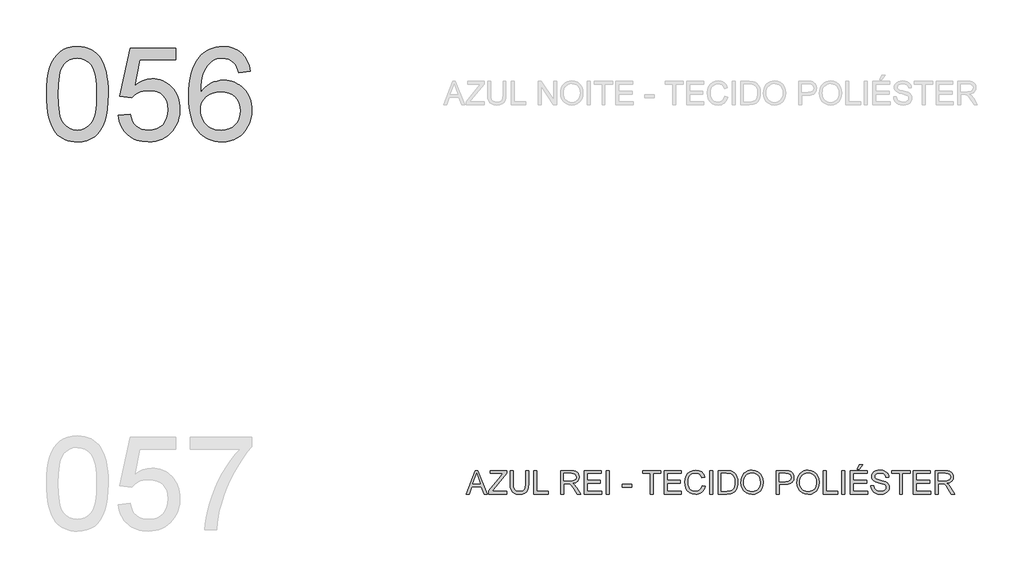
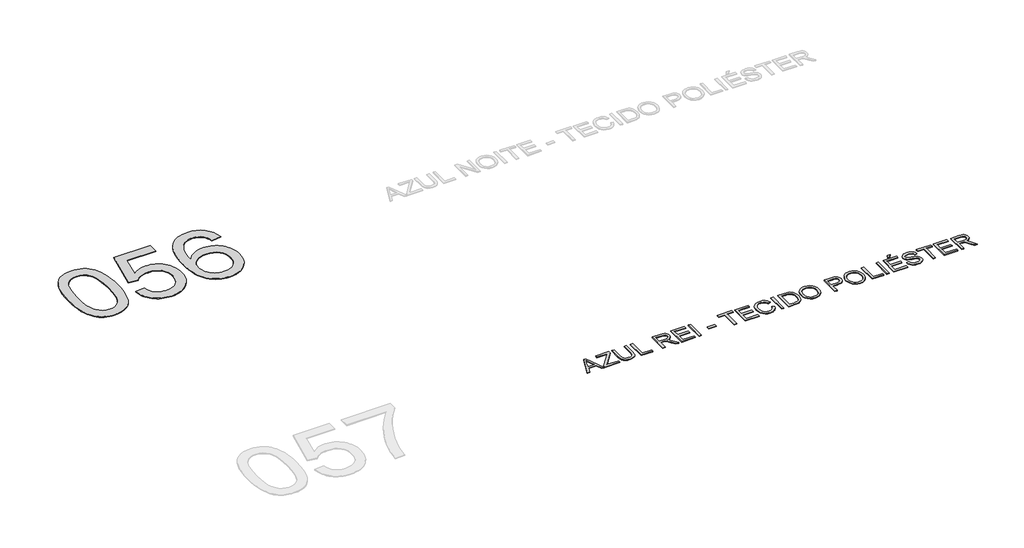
# One storey, part 16 of 67: 2 proxies.
"""IFC4 building model written with IfcOpenShell, lengths in millimetres."""

import ifcopenshell
import ifcopenshell.guid

model = None  # the IFC model being written
_history = None  # IfcOwnerHistory: only IFC2X3 demands one
_inside = {}  # id of a spatial element -> (the spatial element, [elements in it])
_under = {}  # id of a project, library or spatial element -> (it, [spatial elements below it])
_declared = {}  # id of a project -> (the project, [libraries it declares])
_typed = {}  # id of a type object -> (the type object, [elements of that type])
_made_of = {}  # id of a material, layer set ... -> (it, [elements and type objects made of it])


def new_model(schema):
    """Start an empty IFC model of exactly this schema.

    Asked for "IFC4X3", IfcOpenShell would pick the latest addendum, in which some entities
    have other attributes; the version numbers below select the first issue.
    IFC2X3 requires an IfcOwnerHistory on every rooted entity: one is made here for all.
    """
    global model, _history
    if schema == "IFC4X3":
        model = ifcopenshell.file(schema_version=(4, 3, 0, 0))
    else:
        model = ifcopenshell.file(schema=schema)
    _inside.clear()
    _under.clear()
    _declared.clear()
    _typed.clear()
    _made_of.clear()
    _history = None
    if model.schema == "IFC2X3":
        org = make("IfcOrganization", Name="unknown")
        user = make(
            "IfcPersonAndOrganization",
            ThePerson=make("IfcPerson", FamilyName="unknown"),
            TheOrganization=org,
        )
        app = make(
            "IfcApplication",
            ApplicationDeveloper=org,
            Version="unknown",
            ApplicationFullName="unknown",
            ApplicationIdentifier="unknown",
        )
        _history = make(
            "IfcOwnerHistory",
            OwningUser=user,
            OwningApplication=app,
            ChangeAction="ADDED",
            CreationDate=0,
        )
    return model


def make(cls, **values):
    """One entity of the class cls with the attributes given. An attribute that is None is left unset."""
    return model.create_entity(
        cls, **{name: value for name, value in values.items() if value is not None}
    )


def rooted(cls, **values):
    """An entity with a GlobalId (a new one), such as an element, a storey or a relation."""
    return make(cls, GlobalId=ifcopenshell.guid.new(), OwnerHistory=_history, **values)


def si_unit(unit_type, name, prefix=None):
    """IfcSIUnit, for example si_unit("LENGTHUNIT", "METRE", prefix="MILLI")."""
    return make("IfcSIUnit", UnitType=unit_type, Prefix=prefix, Name=name)


def assignment(units):
    """IfcUnitAssignment: the units of a project."""
    return None if units is None else make("IfcUnitAssignment", Units=units)


def point(xyz):
    """IfcCartesianPoint."""
    return None if xyz is None else make("IfcCartesianPoint", Coordinates=xyz)


def direction(xyz):
    """IfcDirection."""
    return None if xyz is None else make("IfcDirection", DirectionRatios=xyz)


def frame(location, z_axis=None, x_axis=None):
    """IfcAxis2Placement3D, a coordinate frame: its origin and axes. An axis left out is left unset."""
    return make(
        "IfcAxis2Placement3D",
        Location=point(location),
        Axis=direction(z_axis),
        RefDirection=direction(x_axis),
    )


def origin():
    """The frame at (0, 0, 0) with its axes left unset."""
    return frame((0.0, 0.0, 0.0))


def origin_with_axes():
    """The frame at (0, 0, 0) with the z axis (0, 0, 1) and the x axis (1, 0, 0) written out."""
    return frame((0.0, 0.0, 0.0), z_axis=(0.0, 0.0, 1.0), x_axis=(1.0, 0.0, 0.0))


def place(relative_to, where):
    """IfcLocalPlacement: puts the frame where relative to a parent placement (None: the world)."""
    return make(
        "IfcLocalPlacement", PlacementRelTo=relative_to, RelativePlacement=where
    )


def context(
    kind, dimensions, precision=None, world=None, true_north=None, identifier=None
):
    """IfcGeometricRepresentationContext, for example the 3D "Model" context."""
    return make(
        "IfcGeometricRepresentationContext",
        ContextIdentifier=identifier,
        ContextType=kind,
        CoordinateSpaceDimension=dimensions,
        Precision=precision,
        WorldCoordinateSystem=world,
        TrueNorth=true_north,
    )


def project(units=None, contexts=None):
    """IfcProject with its units and contexts."""
    return rooted(
        "IfcProject",
        Name="project",
        RepresentationContexts=contexts,
        UnitsInContext=assignment(units),
    )


def spatial(cls, under=None, at=None, **own):
    """A site, building, storey or space (cls), placed at a placement, below another one or the project."""
    s = rooted(cls, ObjectPlacement=at, **own)
    if under is not None:
        _under.setdefault(under.id(), (under, []))[1].append(s)
    return s


def polyline(points):
    """IfcPolyline through the points."""
    return make("IfcPolyline", Points=[point(p) for p in points])


def outline(outer, holes=None, kind="AREA"):
    """IfcArbitraryClosedProfileDef: a profile drawn as a closed curve; with holes, ...WithVoids."""
    if holes is None:
        return make("IfcArbitraryClosedProfileDef", ProfileType=kind, OuterCurve=outer)
    return make(
        "IfcArbitraryProfileDefWithVoids",
        ProfileType=kind,
        OuterCurve=outer,
        InnerCurves=holes,
    )


def extrude(swept, where, along, depth):
    """IfcExtrudedAreaSolid: the profile swept, set in the frame where, extruded along a direction by depth."""
    return make(
        "IfcExtrudedAreaSolid",
        SweptArea=swept,
        Position=where,
        ExtrudedDirection=direction(along),
        Depth=depth,
    )


def shape(context_of_items, identifier, shape_type, items):
    """IfcShapeRepresentation: the items that make up one representation, for example the "Body"."""
    return make(
        "IfcShapeRepresentation",
        ContextOfItems=context_of_items,
        RepresentationIdentifier=identifier,
        RepresentationType=shape_type,
        Items=items,
    )


def made_of(thing, what):
    """Note that an element or type object is made of a material, layer set ...; save() writes the relation."""
    if what is not None:
        _made_of.setdefault(what.id(), (what, []))[1].append(thing)
    return thing


def element(
    cls,
    number,
    at=None,
    inside=None,
    cuts=None,
    type_object=None,
    material=None,
    context=None,
    identifier="Body",
    shape_type=None,
    held_by="IfcProductDefinitionShape",
    body=None,
    shapes=None,
    **own,
):
    """One element of the class cls, such as IfcWall. Its Tag is "e" and its number.

    at: its placement. inside: the storey or other place that contains it. cuts: it is an
    opening in that element (IfcRelVoidsElement). A single representation is given by context,
    identifier, shape_type and body (its items); several are given by shapes. held_by: the class
    of the entity that holds the representations. save() writes the other relations.
    """
    e = rooted(cls, Tag="e%d" % number, ObjectPlacement=at, **own)
    if body is not None:
        shapes = [shape(context, identifier, shape_type, body)]
    if shapes is not None:
        e.Representation = make(held_by, Representations=shapes)
    if inside is not None:
        _inside.setdefault(inside.id(), (inside, []))[1].append(e)
    if cuts is not None:
        rooted(
            "IfcRelVoidsElement", RelatingBuildingElement=cuts, RelatedOpeningElement=e
        )
    if type_object is not None:
        _typed.setdefault(type_object.id(), (type_object, []))[1].append(e)
    return made_of(e, material)


def aggregate(whole, parts):
    """IfcRelAggregates: a whole, such as a stair, and the parts it consists of."""
    return rooted("IfcRelAggregates", RelatingObject=whole, RelatedObjects=parts)


def save(model, path):
    """Write the relations noted so far, then the file.

    IfcRelAggregates (storeys below a building ...), IfcRelContainedInSpatialStructure (elements
    in a storey), IfcRelDefinesByType, IfcRelAssociatesMaterial and IfcRelDeclares: one each for
    every whole, place, type object, material and project.
    """
    for whole, parts in _under.values():
        aggregate(whole, parts)
    for where, things in _inside.values():
        rooted(
            "IfcRelContainedInSpatialStructure",
            RelatedElements=things,
            RelatingStructure=where,
        )
    for kind, things in _typed.values():
        rooted("IfcRelDefinesByType", RelatedObjects=things, RelatingType=kind)
    for what, things in _made_of.values():
        rooted("IfcRelAssociatesMaterial", RelatedObjects=things, RelatingMaterial=what)
    for by, libraries in _declared.values():
        rooted("IfcRelDeclares", RelatingContext=by, RelatedDefinitions=libraries)
    model.write(path)


model = new_model("IFC4")

# Units and contexts
model_context = context("Model", 3, world=origin())
ifc_project = project(units=[si_unit("LENGTHUNIT", "METRE", prefix="MILLI")], contexts=[model_context])

# Site, building, storey
site = spatial("IfcSite", under=ifc_project)
building = spatial("IfcBuilding", under=site)
storey = spatial("IfcBuildingStorey", under=building, Name="Marelli - Linha COLAB - Planta Baixa", Elevation=0.0)

# Proxies
placement = place(None, origin())
element("IfcBuildingElementProxy", 1, Name="1200mm Arial", ObjectType="1200mm Arial", at=placement, inside=storey, context=model_context, shape_type="SweptSolid", body=[
    extrude(outline(polyline([(-25134.0424838, -44895.792664), (-25131.2741718, -44794.4319773), (-25122.9692358, -44702.8385576), (-25109.1276757, -44621.0124048), (-25089.7494916, -44548.953519), (-25064.9174569, -44486.073289), (-25034.7143451, -44431.7831035), (-24999.1401562, -44386.0829627), (-24958.1948901, -44348.9728664), (-24911.7405912, -44320.2596767), (-24859.6393036, -44299.7502555), (-24801.8910274, -44287.4446027), (-24738.4957626, -44283.3427185), (-24690.8550442, -44285.7707396), (-24645.642347, -44293.0548031), (-24602.857671, -44305.194909), (-24562.5010161, -44322.1910572), (-24525.5472697, -44343.7581391), (-24492.971319, -44369.6110463), (-24464.7731641, -44399.7497788), (-24440.9528049, -44434.1743365), (-24420.314625, -44472.7467637), (-24401.6630078, -44515.3291046), (-24370.3194618, -44612.5235278), (-24358.3449029, -44669.6831928), (-24349.7916465, -44735.9479371), (-24344.6596927, -44811.3177609), (-24342.9490414, -44895.792664), (-24345.6897623, -44996.5095573), (-24353.9119248, -45087.6431245), (-24367.6155292, -45169.1933658), (-24386.8005752, -45241.1602811), (-24411.4394718, -45304.0681023), (-24441.5046279, -45358.4410612), (-24476.9960434, -45404.2791578), (-24517.9137183, -45441.5823921), (-24564.4231995, -45470.4887199), (-24616.690034, -45491.1360968), (-24674.7142217, -45503.524523), (-24738.4957626, -45507.6539984), (-24781.170074, -45505.8605737), (-24821.4899407, -45500.4802995), (-24859.4553626, -45491.5131759), (-24895.0663398, -45478.9592028), (-24928.3228721, -45462.8183803), (-24959.2249597, -45443.0907083), (-24987.7726025, -45419.7761868), (-25013.9658006, -45392.8748159), (-25042.1087732, -45350.2786794), (-25066.4993495, -45302.0999336), (-25087.1375294, -45248.3385785), (-25104.023313, -45188.9946142), (-25117.1567002, -45124.0680406), (-25126.5376911, -45053.5588577), (-25132.1662856, -44977.4670655), (-25134.0424838, -44895.792664)]), holes=[polyline([(-24983.3580186, -44895.4983584), (-24978.9434347, -45026.4919399), (-24965.6996828, -45132.5247279), (-24955.766869, -45176.1808245), (-24943.6267631, -45213.5967226), (-24929.2793653, -45244.7724225), (-24912.7246755, -45269.7079239), (-24875.3478648, -45307.884878), (-24833.8507758, -45335.1541309), (-24788.2334084, -45351.5156826), (-24738.4957626, -45356.9695332), (-24688.7581169, -45351.4972885), (-24643.1407495, -45335.0805545), (-24601.6436604, -45307.7193311), (-24564.2668497, -45269.4136183), (-24547.7121599, -45244.418336), (-24533.3647621, -45213.2104465), (-24521.2246563, -45175.7899498), (-24511.2918424, -45132.1568459), (-24498.0480906, -45026.2528166), (-24493.6335066, -44895.4983584), (-24497.9009378, -44767.9720648), (-24510.7032312, -44663.8062779), (-24520.3049513, -44620.4835744), (-24532.0403869, -44583.0009976), (-24545.9095381, -44551.3585475), (-24561.9124049, -44525.5562241), (-24598.6638162, -44485.5122689), (-24640.6391519, -44456.9094438), (-24687.8384119, -44439.7477487), (-24740.2615962, -44434.0271837), (-24789.7417245, -44439.067167), (-24834.5865397, -44454.187117), (-24874.7960418, -44479.3870337), (-24910.3702308, -44514.666917), (-24927.4767435, -44543.2145599), (-24942.3023879, -44577.2068562), (-24954.847164, -44616.6438061), (-24965.1110716, -44661.5254095), (-24978.7962819, -44767.6225769), (-24983.3580186, -44895.4983584)])]), origin_with_axes(), (0.0, 0.0, 1.0), 10.0),
    extrude(outline(polyline([(-24211.1001343, -45168.6139517), (-24060.4156691, -45149.7783935), (-24049.15848, -45198.2192552), (-24032.7509431, -45240.2405761), (-24011.1930581, -45275.8423562), (-23984.4848253, -45305.0245955), (-23952.6814268, -45327.7505057), (-23915.838045, -45343.9832988), (-23873.9546798, -45353.7229746), (-23827.0313314, -45356.9695332), (-23769.6417401, -45352.4537817), (-23719.0211776, -45338.9065272), (-23675.1696437, -45316.3277698), (-23638.0871386, -45284.7175093), (-23608.6013967, -45245.6392444), (-23587.5401525, -45200.6564734), (-23574.903406, -45149.7691965), (-23570.6911571, -45092.9774135), (-23574.6366915, -45039.3034304), (-23586.4732947, -44991.5891356), (-23606.2009667, -44949.8345291), (-23633.8197075, -44914.039611), (-23669.4214876, -44885.3264213), (-23713.0982775, -44864.817), (-23764.8500771, -44852.5113473), (-23824.6768866, -44848.4094631), (-23862.9642052, -44850.0465379), (-23897.775039, -44854.9577626), (-23929.109388, -44863.143137), (-23956.9672521, -44874.6026611), (-24004.2400884, -44904.6954083), (-24041.5801109, -44942.5872538), (-24192.2645762, -44923.7516957), (-24060.4156691, -44302.1782766), (-23476.5133664, -44302.1782766), (-23476.5133664, -44452.8627418), (-23938.5731523, -44452.8627418), (-24003.0260778, -44784.8394543), (-23949.8487354, -44746.7268796), (-23895.3838061, -44719.503612), (-23839.6312897, -44703.1696514), (-23782.5911863, -44697.7249978), (-23745.1522955, -44699.4126565), (-23709.2079254, -44704.4756324), (-23674.7580758, -44712.9139257), (-23641.8027468, -44724.7275363), (-23610.3419384, -44739.9164642), (-23580.3756506, -44758.4807093), (-23551.9038835, -44780.4202718), (-23524.9266369, -44805.7351516), (-23500.3360248, -44833.7033803), (-23479.024161, -44863.6029895), (-23460.9910454, -44895.4339791), (-23446.2366781, -44929.1963492), (-23434.7610592, -44964.8900998), (-23426.5641885, -45002.5152308), (-23421.646066, -45042.0717424), (-23420.0066919, -45083.5596344), (-23425.9111979, -45161.6241938), (-23433.2918304, -45198.6147284), (-23443.624716, -45234.2440996), (-23456.9098545, -45268.5123075), (-23473.1472461, -45301.4193519), (-23492.3368907, -45332.965233), (-23514.4787883, -45363.1499507), (-23544.479565, -45397.0180869), (-23577.0923038, -45426.3704716), (-23612.3170049, -45451.2071048), (-23650.1536681, -45471.5279865), (-23690.6022934, -45487.3331167), (-23733.662881, -45498.6224954), (-23779.3354307, -45505.3961227), (-23827.6199425, -45507.6539984), (-23905.3809993, -45501.8506599), (-23941.4403326, -45494.5964869), (-23975.6188692, -45484.4406445), (-24007.9166091, -45471.383133), (-24038.3335523, -45455.4239522), (-24066.8696989, -45436.5631021), (-24093.5250487, -45414.8005828), (-24117.8627419, -45390.6422321), (-24139.4459187, -45364.5938875), (-24158.2745791, -45336.6555493), (-24174.348723, -45306.8272173), (-24187.6683505, -45275.1088915), (-24198.2334615, -45241.500572), (-24211.1001343, -45168.6139517)])), origin_with_axes(), (0.0, 0.0, 1.0), 10.0),
    extrude(outline(polyline([(-22515.8999005, -44603.5472071), (-22666.5843658, -44622.3827652), (-22677.6576138, -44582.0812927), (-22690.8645775, -44547.7027202), (-22706.2052567, -44519.2470479), (-22723.6796514, -44496.7142757), (-22756.0716611, -44469.2886729), (-22792.0321261, -44449.6989567), (-22831.5610465, -44437.9451269), (-22874.6584222, -44434.0271837), (-22910.195823, -44436.3080521), (-22944.7031541, -44443.1506572), (-22978.1804157, -44454.554999), (-23010.6276077, -44470.5210776), (-23040.2329112, -44496.6315022), (-23067.2446467, -44528.1681863), (-23091.6628141, -44565.1311297), (-23113.4874135, -44607.5203326), (-23131.5596165, -44658.1316981), (-23144.7205949, -44719.7611293), (-23152.9703486, -44792.4086263), (-23156.3088778, -44876.0741891), (-23127.586491, -44838.2099347), (-23095.8658659, -44805.5512106), (-23061.1470026, -44778.0980167), (-23023.4299011, -44755.8503531), (-22983.7262368, -44738.6610669), (-22943.0476851, -44726.3830053), (-22901.3942462, -44719.0161683), (-22858.7659201, -44716.560556), (-22821.8673559, -44718.2390176), (-22786.3667434, -44723.2744024), (-22752.2640824, -44731.6667104), (-22719.5593731, -44743.4159416), (-22688.2526153, -44758.5220961), (-22658.3438091, -44776.9851737), (-22629.8329545, -44798.8051745), (-22602.7200514, -44823.9820986), (-22577.9569946, -44851.81697), (-22556.4956787, -44881.6108131), (-22538.3361037, -44913.3636278), (-22523.4782696, -44947.0754142), (-22511.9221765, -44982.7461721), (-22503.6678242, -45020.3759017), (-22498.7152128, -45059.9646029), (-22497.0643424, -45101.5122757), (-22500.1729453, -45156.4462547), (-22509.4987538, -45209.4120649), (-22525.0417681, -45260.4097065), (-22546.8019881, -45309.4391794), (-22574.0068617, -45354.6702707), (-22605.8838366, -45394.2727675), (-22642.4329128, -45428.2466698), (-22683.6540903, -45456.5919775), (-22728.6644525, -45478.9316116), (-22776.5810823, -45494.8884932), (-22827.40398, -45504.4626221), (-22881.1331454, -45507.6539984), (-22927.1344896, -45505.5386769), (-22970.9607315, -45499.1927125), (-23012.6118712, -45488.6161052), (-23052.0879085, -45473.8088549), (-23089.3888436, -45454.7709616), (-23124.5146763, -45431.5024254), (-23157.4654068, -45404.0032463), (-23188.2410349, -45372.2734242), (-23216.0736071, -45335.6875598), (-23240.1951697, -45293.6202536), (-23260.6057226, -45246.0715057), (-23277.305266, -45193.0413161), (-23290.2937997, -45134.5296848), (-23299.5713237, -45070.5366117), (-23305.1378382, -45001.062097), (-23306.993343, -44926.1061404), (-23304.9332038, -44842.1784618), (-23298.7527863, -44764.1828803), (-23288.4520904, -44692.1193959), (-23274.0311162, -44625.9880088), (-23255.4898637, -44565.7887188), (-23232.8283327, -44511.521526), (-23206.0465235, -44463.1864303), (-23175.1444359, -44420.7834319), (-23145.1298636, -44388.5707647), (-23112.6228908, -44360.6531198), (-23077.6235175, -44337.0304971), (-23040.1317437, -44317.7028968), (-23000.1475693, -44302.6703188), (-22957.6709945, -44291.9327631), (-22912.7020191, -44285.4902296), (-22865.2406432, -44283.3427185), (-22795.8397048, -44288.6586133), (-22733.0238541, -44304.6062978), (-22676.7930911, -44331.1857719), (-22627.1474159, -44368.3970358), (-22585.4295976, -44414.9892904), (-22552.9824057, -44469.7117372), (-22529.80584, -44532.5643761), (-22515.8999005, -44603.5472071)]), holes=[polyline([(-23156.3088778, -45099.157831), (-23154.1291769, -45132.9202011), (-23147.5900745, -45165.9284131), (-23136.6915704, -45198.182467), (-23121.4336646, -45229.6823629), (-23102.5613183, -45258.9473756), (-23080.8194923, -45284.4967801), (-23056.2081869, -45306.3305766), (-23028.7274018, -45324.4487648), (-22998.5518812, -45338.676601), (-22965.8563688, -45348.8393411), (-22930.6408649, -45354.9369852), (-22892.9053692, -45356.9695332), (-22840.5281701, -45352.7572843), (-22793.4668659, -45340.1205378), (-22751.7214565, -45319.0592936), (-22715.2919419, -45289.5735517), (-22685.7418207, -45252.8589286), (-22664.6345912, -45210.1110407), (-22651.9702535, -45161.3298882), (-22647.7488076, -45106.5154709), (-22651.9150712, -45053.8439662), (-22664.413862, -45007.0769676), (-22685.24518, -44966.214475), (-22714.4090251, -44931.2564884), (-22750.9489043, -44903.2514715), (-22793.9083243, -44883.247888), (-22843.2872851, -44871.2457379), (-22899.0857867, -44867.2450212), (-22950.76401, -44871.2457379), (-22998.3771372, -44883.247888), (-23041.9251684, -44903.2514715), (-23081.4081035, -44931.2564884), (-23114.1771923, -44965.7546225), (-23137.5836842, -45005.2375576), (-23151.6275794, -45049.7052938), (-23156.3088778, -45099.157831)])]), origin_with_axes(), (0.0, 0.0, 1.0), 10.0),
])
element("IfcBuildingElementProxy", 2, Name="300mm Arial", ObjectType="300mm Arial", at=placement, inside=storey, context=model_context, shape_type="SweptSolid", body=[
    extrude(outline(polyline([(-19745.7587125, -50030.5663201), (-19625.4613001, -49729.1973896), (-19593.3819901, -49729.1973896), (-19473.0845777, -50030.5663201), (-19512.8894096, -50030.5663201), (-19547.3967407, -49936.3885293), (-19671.5201259, -49936.3885293), (-19705.9538807, -50030.5663201), (-19745.7587125, -50030.5663201)]), holes=[polyline([(-19657.6877629, -49898.717413), (-19561.1555274, -49898.717413), (-19588.3052186, -49824.6259792), (-19609.4216451, -49766.8685059), (-19628.1836269, -49818.1512561), (-19657.6877629, -49898.717413)])]), origin_with_axes(), (0.0, 0.0, 1.0), 10.0),
    extrude(outline(polyline([(-19456.3827351, -50030.5663201), (-19456.3827351, -49991.4972522), (-19302.2401791, -49802.7737887), (-19272.9567723, -49766.8685059), (-19437.547177, -49766.8685059), (-19437.547177, -49729.1973896), (-19225.6471478, -49729.1973896), (-19225.6471478, -49766.8685059), (-19394.3578307, -49973.397458), (-19410.2503329, -49992.8952038), (-19220.9382582, -49992.8952038), (-19220.9382582, -50030.5663201), (-19456.3827351, -50030.5663201)])), origin_with_axes(), (0.0, 0.0, 1.0), 10.0),
    extrude(outline(polyline([(-18980.7848918, -49729.1973896), (-18943.1137755, -49729.1973896), (-18943.1137755, -49903.0584205), (-18945.6705553, -49943.7737604), (-18953.3408949, -49975.1265034), (-18967.6698986, -49999.3147446), (-18990.2026708, -50018.5365788), (-19020.9943938, -50031.0905519), (-19060.1002499, -50035.2752096), (-19098.3507804, -50031.6331779), (-19128.9309712, -50020.7070826), (-19151.8500195, -50002.8740029), (-19167.1171223, -49978.5110178), (-19175.6979699, -49945.8338995), (-19178.5582524, -49903.0584205), (-19178.5582524, -49729.1973896), (-19140.8871361, -49729.1973896), (-19140.8871361, -49901.7340454), (-19139.029332, -49935.588386), (-19133.4559198, -49959.1604248), (-19123.357559, -49975.4851883), (-19107.9249093, -49987.597703), (-19087.8017642, -49995.1024957), (-19063.6319171, -49997.6040933), (-19025.3170073, -49992.6560805), (-19010.974208, -49986.4710644), (-18999.8411791, -49977.812042), (-18991.5040534, -49965.6351479), (-18985.5489636, -49948.8965171), (-18980.7848918, -49901.7340454), (-18980.7848918, -49729.1973896)])), origin_with_axes(), (0.0, 0.0, 1.0), 10.0),
    extrude(outline(polyline([(-18877.1893219, -50030.5663201), (-18877.1893219, -49729.1973896), (-18839.5182056, -49729.1973896), (-18839.5182056, -49992.8952038), (-18688.8337404, -49992.8952038), (-18688.8337404, -50030.5663201), (-18877.1893219, -50030.5663201)])), origin_with_axes(), (0.0, 0.0, 1.0), 10.0),
    extrude(outline(polyline([(-18528.7314961, -50030.5663201), (-18528.7314961, -49729.1973896), (-18398.8691518, -49729.1973896), (-18363.9663475, -49731.2299376), (-18338.5732928, -49737.3275817), (-18320.0136461, -49748.5847708), (-18305.611066, -49766.0959537), (-18296.3680309, -49787.8101885), (-18293.2870192, -49811.6765329), (-18298.3913819, -49841.3646099), (-18313.7044699, -49865.9759154), (-18325.3042491, -49876.0052983), (-18339.6861358, -49884.0205273), (-18376.7962321, -49894.0085235), (-18355.3855, -49910.1217548), (-18324.8512944, -49948.8965171), (-18274.5986138, -50030.5663201), (-18318.3765712, -50030.5663201), (-18357.5927919, -49968.0999573), (-18385.9197056, -49926.750021), (-18405.8221215, -49907.2154871), (-18423.7379747, -49900.0417882), (-18445.5901652, -49898.717413), (-18491.0603798, -49898.717413), (-18491.0603798, -50030.5663201), (-18528.7314961, -50030.5663201)]), holes=[polyline([(-18491.0603798, -49861.0462967), (-18406.7418265, -49861.0462967), (-18382.5259942, -49859.7127245), (-18363.7364213, -49855.7120078), (-18349.5913585, -49848.7774322), (-18339.3090568, -49838.6422832), (-18333.0458658, -49826.3826157), (-18330.9581355, -49813.0744845), (-18334.9404581, -49794.6987789), (-18346.8874259, -49779.8915286), (-18367.4428324, -49770.1242616), (-18397.250471, -49766.8685059), (-18491.0603798, -49766.8685059), (-18491.0603798, -49861.0462967)])]), origin_with_axes(), (0.0, 0.0, 1.0), 10.0),
    extrude(outline(polyline([(-18227.3625656, -50030.5663201), (-18227.3625656, -49729.1973896), (-18010.7536469, -49729.1973896), (-18010.7536469, -49766.8685059), (-18189.6914493, -49766.8685059), (-18189.6914493, -49856.3374072), (-18020.171426, -49856.3374072), (-18020.171426, -49894.0085235), (-18189.6914493, -49894.0085235), (-18189.6914493, -49992.8952038), (-18006.0447573, -49992.8952038), (-18006.0447573, -50030.5663201), (-18227.3625656, -50030.5663201)])), origin_with_axes(), (0.0, 0.0, 1.0), 10.0),
    extrude(outline(polyline([(-17944.8291933, -50030.5663201), (-17944.8291933, -49729.1973896), (-17907.158077, -49729.1973896), (-17907.158077, -50030.5663201), (-17944.8291933, -50030.5663201)])), origin_with_axes(), (0.0, 0.0, 1.0), 10.0),
    extrude(outline(polyline([(-17737.6380537, -49941.0974188), (-17737.6380537, -49903.4263025), (-17619.9158152, -49903.4263025), (-17619.9158152, -49941.0974188), (-17737.6380537, -49941.0974188)])), origin_with_axes(), (0.0, 0.0, 1.0), 10.0),
    extrude(outline(polyline([(-17379.7624488, -50030.5663201), (-17379.7624488, -49766.8685059), (-17478.6491291, -49766.8685059), (-17478.6491291, -49729.1973896), (-17243.2046521, -49729.1973896), (-17243.2046521, -49766.8685059), (-17342.0913324, -49766.8685059), (-17342.0913324, -50030.5663201), (-17379.7624488, -50030.5663201)])), origin_with_axes(), (0.0, 0.0, 1.0), 10.0),
    extrude(outline(polyline([(-17200.8246463, -50030.5663201), (-17200.8246463, -49729.1973896), (-16984.2157275, -49729.1973896), (-16984.2157275, -49766.8685059), (-17163.15353, -49766.8685059), (-17163.15353, -49856.3374072), (-16993.6335066, -49856.3374072), (-16993.6335066, -49894.0085235), (-17163.15353, -49894.0085235), (-17163.15353, -49992.8952038), (-16979.506838, -49992.8952038), (-16979.506838, -50030.5663201), (-17200.8246463, -50030.5663201)])), origin_with_axes(), (0.0, 0.0, 1.0), 10.0),
    extrude(outline(polyline([(-16711.1001343, -49923.4390831), (-16673.429018, -49933.1511677), (-16680.8832269, -49956.5783531), (-16690.8114423, -49977.0486868), (-16703.2136641, -49994.5621691), (-16718.0898922, -50009.1187997), (-16735.1044345, -50020.5622291), (-16753.9215986, -50028.7361071), (-16774.5413844, -50033.640434), (-16796.963792, -50035.2752096), (-16840.658976, -50030.3271968), (-16875.3594452, -50015.4831583), (-16901.9573134, -49991.2581289), (-16921.3446946, -49958.1671434), (-16933.1812978, -49919.2636224), (-16937.1268322, -49877.6009865), (-16932.666263, -49833.6574821), (-16919.2845554, -49795.7104543), (-16897.6806852, -49764.9647166), (-16868.5536283, -49742.6250824), (-16834.0095089, -49729.0226457), (-16796.1544516, -49724.4885001), (-16754.8505006, -49730.3562179), (-16736.8817644, -49737.6908652), (-16720.7018544, -49747.9593714), (-16706.577485, -49760.8904235), (-16694.7753708, -49776.2127086), (-16678.1379076, -49814.0309777), (-16715.8090239, -49823.0072984), (-16728.8688347, -49795.5357104), (-16746.7111115, -49776.6909552), (-16769.5565834, -49765.7924511), (-16797.6259796, -49762.1596164), (-16829.9812011, -49766.1879242), (-16856.5606752, -49778.2728478), (-16876.7298056, -49797.1451941), (-16889.8539958, -49821.5357704), (-16897.0552858, -49849.1085259), (-16899.4557159, -49877.5274101), (-16896.6138274, -49912.3290468), (-16888.0881622, -49942.421794), (-16873.5568234, -49966.6560205), (-16852.6979143, -49983.8820949), (-16827.6911356, -49994.1735937), (-16800.7161883, -49997.6040933), (-16769.2714748, -49992.931992), (-16743.0690797, -49978.9156879), (-16723.2862254, -49955.702334), (-16711.1001343, -49923.4390831)])), origin_with_axes(), (0.0, 0.0, 1.0), 10.0),
    extrude(outline(polyline([(-16616.9223436, -50030.5663201), (-16616.9223436, -49729.1973896), (-16579.2512273, -49729.1973896), (-16579.2512273, -50030.5663201), (-16616.9223436, -50030.5663201)])), origin_with_axes(), (0.0, 0.0, 1.0), 10.0),
    extrude(outline(polyline([(-16503.9089946, -50030.5663201), (-16503.9089946, -49729.1973896), (-16399.9455428, -49729.1973896), (-16346.1611951, -49733.5383972), (-16322.1385008, -49741.9077126), (-16301.8682029, -49755.0962821), (-16281.0276879, -49778.0521186), (-16266.1836494, -49806.5997614), (-16257.2992992, -49840.1873876), (-16254.3378491, -49878.2631741), (-16256.342806, -49910.6091985), (-16262.3576766, -49939.0740679), (-16271.5179383, -49963.3082943), (-16282.9590683, -49982.9623899), (-16296.1292438, -49998.477813), (-16310.4766416, -50010.2960221), (-16326.9485579, -50019.0608107), (-16346.4922889, -50025.4159721), (-16394.9423477, -50030.5663201), (-16503.9089946, -50030.5663201)]), holes=[polyline([(-16466.2378783, -49992.8952038), (-16399.5776608, -49992.8952038), (-16372.0049053, -49991.5340404), (-16351.0908138, -49987.4505502), (-16335.3086762, -49980.8838566), (-16323.1317822, -49972.0730828), (-16310.0443802, -49955.7667134), (-16300.2127339, -49934.6594839), (-16294.0599075, -49908.6594239), (-16292.0089654, -49877.6745629), (-16296.0280762, -49836.6189322), (-16308.0854086, -49806.3054558), (-16325.9000942, -49785.4833349), (-16347.1912647, -49772.9017706), (-16368.8595142, -49768.3768221), (-16400.6077304, -49766.8685059), (-16466.2378783, -49766.8685059), (-16466.2378783, -49992.8952038)])]), origin_with_axes(), (0.0, 0.0, 1.0), 10.0),
    extrude(outline(polyline([(-16216.6667328, -49883.8549804), (-16214.1559382, -49848.5061192), (-16206.6235543, -49817.213157), (-16194.0695813, -49789.9760937), (-16176.4940189, -49766.7949295), (-16154.9499296, -49748.2858666), (-16130.4903754, -49735.0651074), (-16103.1153565, -49727.1326519), (-16072.8248727, -49724.4885001), (-16033.2959523, -49729.454907), (-15997.8505221, -49744.3541278), (-15968.4199625, -49768.1376988), (-15946.9356539, -49799.7571563), (-15933.8022667, -49837.68579), (-15929.424471, -49880.3968896), (-15934.032193, -49923.6782064), (-15947.8553589, -49962.140269), (-15970.1306137, -49993.8149087), (-16000.0946022, -50016.733957), (-16035.2365298, -50030.6398965), (-16073.0456019, -50035.2752096), (-16113.1815276, -50030.1524528), (-16148.8292929, -50014.7841825), (-16178.1862761, -49990.5591531), (-16199.4498554, -49958.8661192), (-16212.3625135, -49922.3998164), (-16216.6667328, -49883.8549804)]), holes=[polyline([(-16178.9956165, -49884.2228624), (-16177.1125205, -49909.1974513), (-16171.4632326, -49931.3669401), (-16162.0477528, -49950.7313286), (-16148.8660811, -49967.2906169), (-16132.8425209, -49980.5527628), (-16114.9013759, -49990.0257242), (-16095.0426459, -49995.709501), (-16073.2663311, -49997.6040933), (-16051.1175357, -49995.6911069), (-16031.024281, -49989.9521478), (-16012.9865669, -49980.3872159), (-15997.0043935, -49966.9963113), (-15983.9192908, -49950.0875351), (-15974.5727888, -49929.9689885), (-15968.9648877, -49906.6406715), (-15967.0955873, -49880.102584), (-15970.2961606, -49846.7540812), (-15979.8978807, -49817.9305269), (-15995.6524272, -49794.358488), (-16017.3114796, -49776.7645316), (-16043.4402983, -49765.8108452), (-16072.6041435, -49762.1596164), (-16093.624001, -49763.9185522), (-16113.1263453, -49769.1953595), (-16131.1111763, -49777.9900385), (-16147.5784941, -49790.302589), (-16161.3234852, -49806.7262208), (-16171.1413359, -49827.8541437), (-16177.0320463, -49853.6863575), (-16178.9956165, -49884.2228624)])]), origin_with_axes(), (0.0, 0.0, 1.0), 10.0),
    extrude(outline(polyline([(-15759.9044476, -50030.5663201), (-15759.9044476, -49729.1973896), (-15648.2154739, -49729.1973896), (-15603.1867176, -49732.0668692), (-15583.1095578, -49737.4287493), (-15566.5824591, -49746.1567496), (-15553.274328, -49758.6463433), (-15542.8540704, -49775.2930036), (-15536.1218299, -49794.9287051), (-15533.8777498, -49816.3854225), (-15535.3929637, -49834.8852883), (-15539.9386056, -49851.9044291), (-15547.5146755, -49867.4428449), (-15558.1211732, -49881.5005356), (-15572.6824025, -49893.1531978), (-15592.1226666, -49901.476528), (-15616.4419658, -49906.470526), (-15645.6402999, -49908.1351921), (-15722.2333313, -49908.1351921), (-15722.2333313, -50030.5663201), (-15759.9044476, -50030.5663201)]), holes=[polyline([(-15722.2333313, -49870.4640758), (-15643.4330079, -49870.4640758), (-15610.0293228, -49867.005985), (-15587.956403, -49856.6317127), (-15575.6507503, -49839.9850525), (-15571.5488661, -49817.7097977), (-15573.9676902, -49800.7872259), (-15581.2241625, -49786.5134045), (-15592.4169722, -49775.7712502), (-15606.6448084, -49769.4436799), (-15644.3159247, -49766.8685059), (-15722.2333313, -49766.8685059), (-15722.2333313, -49870.4640758)])]), origin_with_axes(), (0.0, 0.0, 1.0), 10.0),
    extrude(outline(polyline([(-15496.2066334, -49883.8549804), (-15493.6958388, -49848.5061192), (-15486.163455, -49817.213157), (-15473.6094819, -49789.9760937), (-15456.0339196, -49766.7949295), (-15434.4898302, -49748.2858666), (-15410.0302761, -49735.0651074), (-15382.6552571, -49727.1326519), (-15352.3647733, -49724.4885001), (-15312.835853, -49729.454907), (-15277.3904227, -49744.3541278), (-15247.9598631, -49768.1376988), (-15226.4755546, -49799.7571563), (-15213.3421674, -49837.68579), (-15208.9643716, -49880.3968896), (-15213.5720936, -49923.6782064), (-15227.3952596, -49962.140269), (-15249.6705144, -49993.8149087), (-15279.6345029, -50016.733957), (-15314.7764305, -50030.6398965), (-15352.5855025, -50035.2752096), (-15392.7214282, -50030.1524528), (-15428.3691935, -50014.7841825), (-15457.7261768, -49990.5591531), (-15478.9897561, -49958.8661192), (-15491.9024141, -49922.3998164), (-15496.2066334, -49883.8549804)]), holes=[polyline([(-15458.5355171, -49884.2228624), (-15456.6524212, -49909.1974513), (-15451.0031333, -49931.3669401), (-15441.5876535, -49950.7313286), (-15428.4059817, -49967.2906169), (-15412.3824216, -49980.5527628), (-15394.4412765, -49990.0257242), (-15374.5825466, -49995.709501), (-15352.8062317, -49997.6040933), (-15330.6574364, -49995.6911069), (-15310.5641816, -49989.9521478), (-15292.5264676, -49980.3872159), (-15276.5442941, -49966.9963113), (-15263.4591914, -49950.0875351), (-15254.1126895, -49929.9689885), (-15248.5047883, -49906.6406715), (-15246.6354879, -49880.102584), (-15249.8360613, -49846.7540812), (-15259.4377814, -49817.9305269), (-15275.1923278, -49794.358488), (-15296.8513803, -49776.7645316), (-15322.980199, -49765.8108452), (-15352.1440441, -49762.1596164), (-15373.1639016, -49763.9185522), (-15392.6662459, -49769.1953595), (-15410.6510769, -49777.9900385), (-15427.1183948, -49790.302589), (-15440.8633858, -49806.7262208), (-15450.6812365, -49827.8541437), (-15456.571947, -49853.6863575), (-15458.5355171, -49884.2228624)])]), origin_with_axes(), (0.0, 0.0, 1.0), 10.0),
    extrude(outline(polyline([(-15157.1665867, -50030.5663201), (-15157.1665867, -49729.1973896), (-15119.4954704, -49729.1973896), (-15119.4954704, -49992.8952038), (-14968.8110052, -49992.8952038), (-14968.8110052, -50030.5663201), (-15157.1665867, -50030.5663201)])), origin_with_axes(), (0.0, 0.0, 1.0), 10.0),
    extrude(outline(polyline([(-14921.7221098, -50030.5663201), (-14921.7221098, -49729.1973896), (-14884.0509935, -49729.1973896), (-14884.0509935, -50030.5663201), (-14921.7221098, -50030.5663201)])), origin_with_axes(), (0.0, 0.0, 1.0), 10.0),
    extrude(outline(polyline([(-14808.7087609, -50030.5663201), (-14808.7087609, -49729.1973896), (-14592.0998421, -49729.1973896), (-14592.0998421, -49766.8685059), (-14771.0376446, -49766.8685059), (-14771.0376446, -49856.3374072), (-14601.5176212, -49856.3374072), (-14601.5176212, -49894.0085235), (-14771.0376446, -49894.0085235), (-14771.0376446, -49992.8952038), (-14587.3909526, -49992.8952038), (-14587.3909526, -50030.5663201), (-14808.7087609, -50030.5663201)])), origin_with_axes(), (0.0, 0.0, 1.0), 10.0),
    extrude(outline(polyline([(-14723.9487492, -49710.3618315), (-14695.6954119, -49653.855157), (-14648.6065166, -49653.855157), (-14695.6954119, -49710.3618315), (-14723.9487492, -49710.3618315)])), origin_with_axes(), (0.0, 0.0, 1.0), 10.0),
    extrude(outline(polyline([(-14545.0109467, -49926.9707502), (-14507.3398304, -49926.9707502), (-14503.017217, -49947.8756446), (-14495.1997246, -49964.6786547), (-14483.0044364, -49978.0143771), (-14465.5484358, -49988.517408), (-14444.21128, -49995.332422), (-14420.3725268, -49997.6040933), (-14399.3848589, -49995.884245), (-14381.0091533, -49990.7247), (-14366.1191295, -49982.5577197), (-14355.5885074, -49971.8155654), (-14349.3253164, -49959.4823216), (-14347.2375861, -49946.5420724), (-14348.8010846, -49933.932917), (-14353.49158, -49923.0344129), (-14363.0197237, -49913.7361954), (-14379.0961669, -49905.9279001), (-14433.9473724, -49891.5437141), (-14469.9538227, -49882.0247675), (-14492.9924326, -49872.9656733), (-14511.7452173, -49860.2921386), (-14525.0349544, -49844.9330653), (-14532.9536143, -49827.2195472), (-14535.5931676, -49807.4826782), (-14532.3282149, -49785.4189555), (-14522.5333568, -49764.845155), (-14506.4661107, -49747.4075484), (-14484.3839939, -49734.7524077), (-14457.8780962, -49727.054477), (-14428.539507, -49724.4885001), (-14396.7545027, -49727.1740386), (-14368.9426238, -49735.2306543), (-14346.0971519, -49748.4928003), (-14329.2113684, -49766.7949295), (-14318.5243964, -49788.9966079), (-14314.2753593, -49813.9574013), (-14351.9464757, -49813.9574013), (-14358.8626572, -49791.4798114), (-14373.2836314, -49775.2562154), (-14395.8164036, -49765.4337661), (-14427.0679791, -49762.1596164), (-14459.0553185, -49765.3969779), (-14480.9994796, -49775.1090626), (-14493.6914084, -49789.4012781), (-14497.9220513, -49806.3790322), (-14494.9238131, -49820.8551887), (-14485.9290983, -49832.4986539), (-14464.665519, -49842.9097143), (-14424.4192287, -49853.541504), (-14382.8853514, -49863.6398648), (-14357.7590112, -49872.4506385), (-14336.2838997, -49886.1174547), (-14321.3019055, -49902.9848441), (-14312.5003287, -49922.868866), (-14309.5664698, -49945.5855792), (-14312.9417871, -49968.8081301), (-14323.067739, -49990.6511236), (-14339.5304583, -50009.4498935), (-14361.9160777, -50023.539774), (-14388.8358427, -50032.3413507), (-14418.9009988, -50035.2752096), (-14455.8087599, -50032.1114244), (-14486.1866157, -50022.620069), (-14510.3840539, -50006.764355), (-14528.7505625, -49984.5074943), (-14540.5411805, -49957.3945912), (-14545.0109467, -49926.9707502)])), origin_with_axes(), (0.0, 0.0, 1.0), 10.0),
    extrude(outline(polyline([(-14177.7175627, -50030.5663201), (-14177.7175627, -49766.8685059), (-14276.604243, -49766.8685059), (-14276.604243, -49729.1973896), (-14041.1597661, -49729.1973896), (-14041.1597661, -49766.8685059), (-14140.0464464, -49766.8685059), (-14140.0464464, -50030.5663201), (-14177.7175627, -50030.5663201)])), origin_with_axes(), (0.0, 0.0, 1.0), 10.0),
    extrude(outline(polyline([(-13998.7797603, -50030.5663201), (-13998.7797603, -49729.1973896), (-13782.1708415, -49729.1973896), (-13782.1708415, -49766.8685059), (-13961.108644, -49766.8685059), (-13961.108644, -49856.3374072), (-13791.5886206, -49856.3374072), (-13791.5886206, -49894.0085235), (-13961.108644, -49894.0085235), (-13961.108644, -49992.8952038), (-13777.461952, -49992.8952038), (-13777.461952, -50030.5663201), (-13998.7797603, -50030.5663201)])), origin_with_axes(), (0.0, 0.0, 1.0), 10.0),
    extrude(outline(polyline([(-13720.9552775, -50030.5663201), (-13720.9552775, -49729.1973896), (-13591.0929332, -49729.1973896), (-13556.1901289, -49731.2299376), (-13530.7970742, -49737.3275817), (-13512.2374276, -49748.5847708), (-13497.8348475, -49766.0959537), (-13488.5918123, -49787.8101885), (-13485.5108006, -49811.6765329), (-13490.6151633, -49841.3646099), (-13505.9282513, -49865.9759154), (-13517.5280305, -49876.0052983), (-13531.9099173, -49884.0205273), (-13569.0200135, -49894.0085235), (-13547.6092814, -49910.1217548), (-13517.0750758, -49948.8965171), (-13466.8223953, -50030.5663201), (-13510.6003527, -50030.5663201), (-13549.8165734, -49968.0999573), (-13578.143487, -49926.750021), (-13598.0459029, -49907.2154871), (-13615.9617561, -49900.0417882), (-13637.8139466, -49898.717413), (-13683.2841612, -49898.717413), (-13683.2841612, -50030.5663201), (-13720.9552775, -50030.5663201)]), holes=[polyline([(-13683.2841612, -49861.0462967), (-13598.9656079, -49861.0462967), (-13574.7497756, -49859.7127245), (-13555.9602027, -49855.7120078), (-13541.81514, -49848.7774322), (-13531.5328382, -49838.6422832), (-13525.2696472, -49826.3826157), (-13523.1819169, -49813.0744845), (-13527.1642395, -49794.6987789), (-13539.1112073, -49779.8915286), (-13559.6666138, -49770.1242616), (-13589.4742524, -49766.8685059), (-13683.2841612, -49766.8685059), (-13683.2841612, -49861.0462967)])]), origin_with_axes(), (0.0, 0.0, 1.0), 10.0),
])

save(model, "model.ifc")
